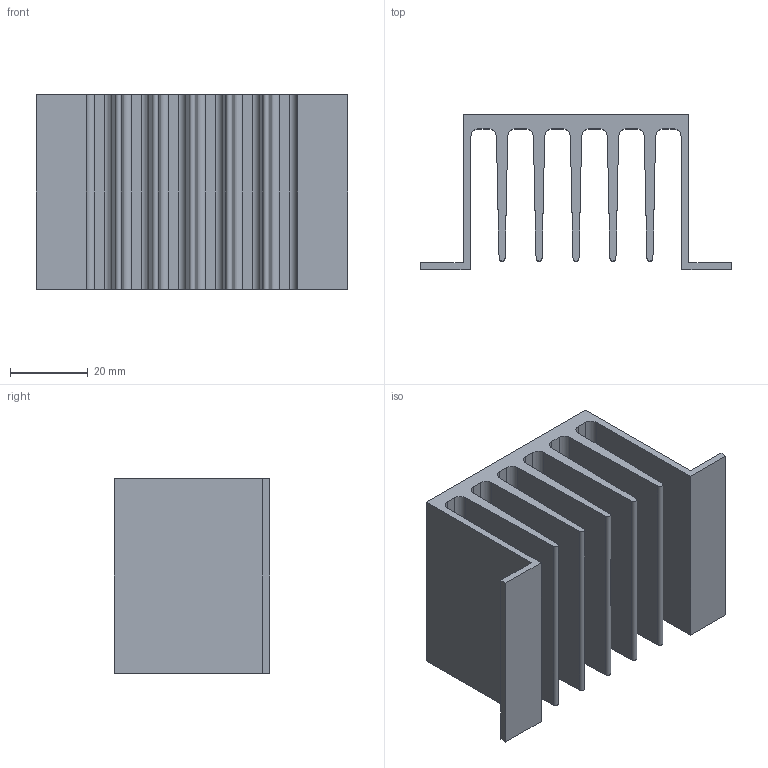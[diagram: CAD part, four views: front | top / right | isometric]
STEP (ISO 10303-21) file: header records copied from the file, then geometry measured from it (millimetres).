
FILE_DESCRIPTION (( 'STEP AP203' ), '1' );
FILE_NAME ('PR 181-50.step', '2002-10-21T08:16:44', ( 'Wolfgang Müller' ), ( 'DPS' ), 'SwSTEP 2.0', 'SolidWorks 2002264', '' );
FILE_SCHEMA (( 'CONFIG_CONTROL_DESIGN' ));
Length unit declared in the file: millimetre
Products named in the file (1): PR 181-50
Bounding box: 80 x 40 x 50 mm (x, y, z)
Volume: 39435.5 mm3; surface area: 33158 mm2
Topology: 1 solids, 1 shells, 46 faces, 132 edges, 88 vertices
Faces by surface type: plane 29, cylinder 17
Entity records: 1587 total; most frequent: CARTESIAN_POINT 267, ORIENTED_EDGE 264, DIRECTION 260, EDGE_CURVE 132, LINE 98, VECTOR 98, VERTEX_POINT 88, AXIS2_PLACEMENT_3D 81
